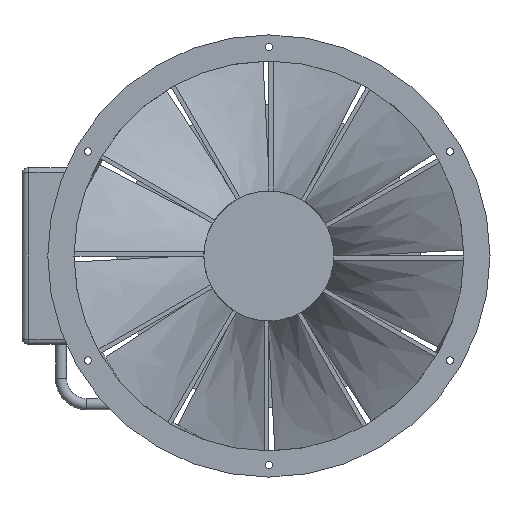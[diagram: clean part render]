
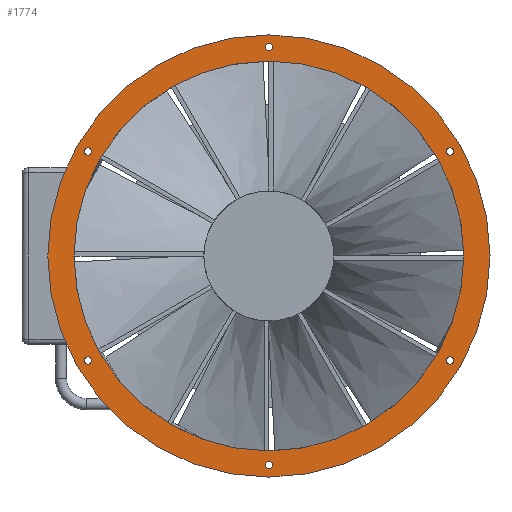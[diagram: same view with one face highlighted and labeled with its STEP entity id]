
A CAD part, left-side view. The second image highlights one B-rep face of the part: STEP entity #1774.
In plain terms, the highlighted planar face has unit normal (-1, 0, 0).
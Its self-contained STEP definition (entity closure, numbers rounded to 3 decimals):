
#276=PLANE('',#1923);
#338=FACE_BOUND('',#668,.T.);
#339=FACE_BOUND('',#669,.T.);
#340=FACE_BOUND('',#670,.T.);
#341=FACE_BOUND('',#671,.T.);
#342=FACE_BOUND('',#672,.T.);
#343=FACE_BOUND('',#673,.T.);
#344=FACE_BOUND('',#674,.T.);
#503=FACE_OUTER_BOUND('',#667,.T.);
#667=EDGE_LOOP('',(#1582));
#668=EDGE_LOOP('',(#1583));
#669=EDGE_LOOP('',(#1584));
#670=EDGE_LOOP('',(#1585));
#671=EDGE_LOOP('',(#1586));
#672=EDGE_LOOP('',(#1587));
#673=EDGE_LOOP('',(#1588));
#674=EDGE_LOOP('',(#1589));
#706=CIRCLE('',#1844,4.25);
#708=CIRCLE('',#1847,4.25);
#710=CIRCLE('',#1850,4.25);
#712=CIRCLE('',#1853,4.25);
#714=CIRCLE('',#1856,4.25);
#716=CIRCLE('',#1859,4.25);
#741=CIRCLE('',#1909,257.5);
#748=CIRCLE('',#1922,227.);
#803=VERTEX_POINT('',#2748);
#805=VERTEX_POINT('',#2753);
#807=VERTEX_POINT('',#2758);
#809=VERTEX_POINT('',#2763);
#811=VERTEX_POINT('',#2768);
#813=VERTEX_POINT('',#2773);
#910=VERTEX_POINT('',#3954);
#917=VERTEX_POINT('',#3974);
#976=EDGE_CURVE('',#803,#803,#706,.T.);
#978=EDGE_CURVE('',#805,#805,#708,.T.);
#980=EDGE_CURVE('',#807,#807,#710,.T.);
#982=EDGE_CURVE('',#809,#809,#712,.T.);
#984=EDGE_CURVE('',#811,#811,#714,.T.);
#986=EDGE_CURVE('',#813,#813,#716,.T.);
#1131=EDGE_CURVE('',#910,#910,#741,.T.);
#1138=EDGE_CURVE('',#917,#917,#748,.T.);
#1582=ORIENTED_EDGE('',*,*,#1131,.F.);
#1583=ORIENTED_EDGE('',*,*,#976,.T.);
#1584=ORIENTED_EDGE('',*,*,#978,.T.);
#1585=ORIENTED_EDGE('',*,*,#980,.T.);
#1586=ORIENTED_EDGE('',*,*,#982,.T.);
#1587=ORIENTED_EDGE('',*,*,#984,.T.);
#1588=ORIENTED_EDGE('',*,*,#986,.T.);
#1589=ORIENTED_EDGE('',*,*,#1138,.T.);
#1774=ADVANCED_FACE('',(#503,#338,#339,#340,#341,#342,#343,#344),#276,.T.);
#1844=AXIS2_PLACEMENT_3D('',#2749,#2076,#2077);
#1847=AXIS2_PLACEMENT_3D('',#2754,#2082,#2083);
#1850=AXIS2_PLACEMENT_3D('',#2759,#2088,#2089);
#1853=AXIS2_PLACEMENT_3D('',#2764,#2094,#2095);
#1856=AXIS2_PLACEMENT_3D('',#2769,#2100,#2101);
#1859=AXIS2_PLACEMENT_3D('',#2774,#2106,#2107);
#1909=AXIS2_PLACEMENT_3D('',#3955,#2278,#2279);
#1922=AXIS2_PLACEMENT_3D('',#3975,#2304,#2305);
#1923=AXIS2_PLACEMENT_3D('',#3976,#2306,#2307);
#2076=DIRECTION('center_axis',(1.,0.,0.));
#2077=DIRECTION('ref_axis',(0.,-0.866,-0.5));
#2082=DIRECTION('center_axis',(1.,0.,0.));
#2083=DIRECTION('ref_axis',(0.,-0.866,0.5));
#2088=DIRECTION('center_axis',(1.,0.,0.));
#2089=DIRECTION('ref_axis',(0.,0.,1.));
#2094=DIRECTION('center_axis',(1.,0.,0.));
#2095=DIRECTION('ref_axis',(0.,0.866,0.5));
#2100=DIRECTION('center_axis',(1.,0.,0.));
#2101=DIRECTION('ref_axis',(0.,0.866,-0.5));
#2106=DIRECTION('center_axis',(1.,0.,0.));
#2107=DIRECTION('ref_axis',(0.,0.,-1.));
#2278=DIRECTION('center_axis',(1.,0.,0.));
#2279=DIRECTION('ref_axis',(0.,0.,-1.));
#2304=DIRECTION('center_axis',(1.,0.,0.));
#2305=DIRECTION('ref_axis',(0.,0.,-1.));
#2306=DIRECTION('center_axis',(-1.,0.,0.));
#2307=DIRECTION('ref_axis',(0.,0.,1.));
#2748=CARTESIAN_POINT('',(0.,214.558,123.875));
#2749=CARTESIAN_POINT('Origin',(0.,210.877,121.75));
#2753=CARTESIAN_POINT('',(0.,214.558,-123.875));
#2754=CARTESIAN_POINT('Origin',(0.,210.877,-121.75));
#2758=CARTESIAN_POINT('',(0.,0.,-247.75));
#2759=CARTESIAN_POINT('Origin',(0.,0.,-243.5));
#2763=CARTESIAN_POINT('',(0.,-214.558,-123.875));
#2764=CARTESIAN_POINT('Origin',(0.,-210.877,-121.75));
#2768=CARTESIAN_POINT('',(0.,-214.558,123.875));
#2769=CARTESIAN_POINT('Origin',(0.,-210.877,121.75));
#2773=CARTESIAN_POINT('',(0.,0.,247.75));
#2774=CARTESIAN_POINT('Origin',(0.,0.,243.5));
#3954=CARTESIAN_POINT('',(0.,257.5,0.));
#3955=CARTESIAN_POINT('Origin',(0.,0.,0.));
#3974=CARTESIAN_POINT('',(0.,227.,0.));
#3975=CARTESIAN_POINT('Origin',(0.,0.,0.));
#3976=CARTESIAN_POINT('Origin',(0.,257.5,0.));
